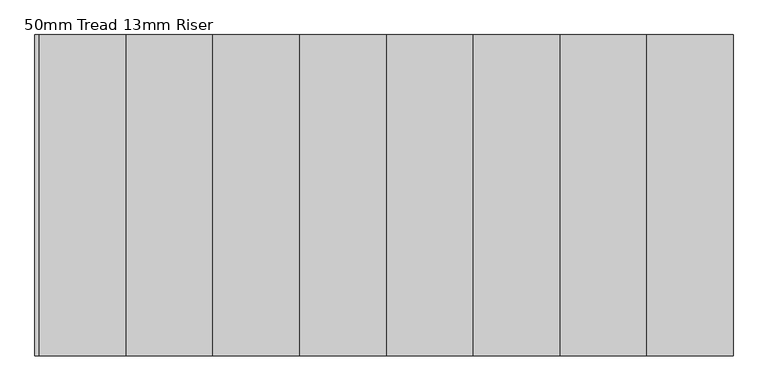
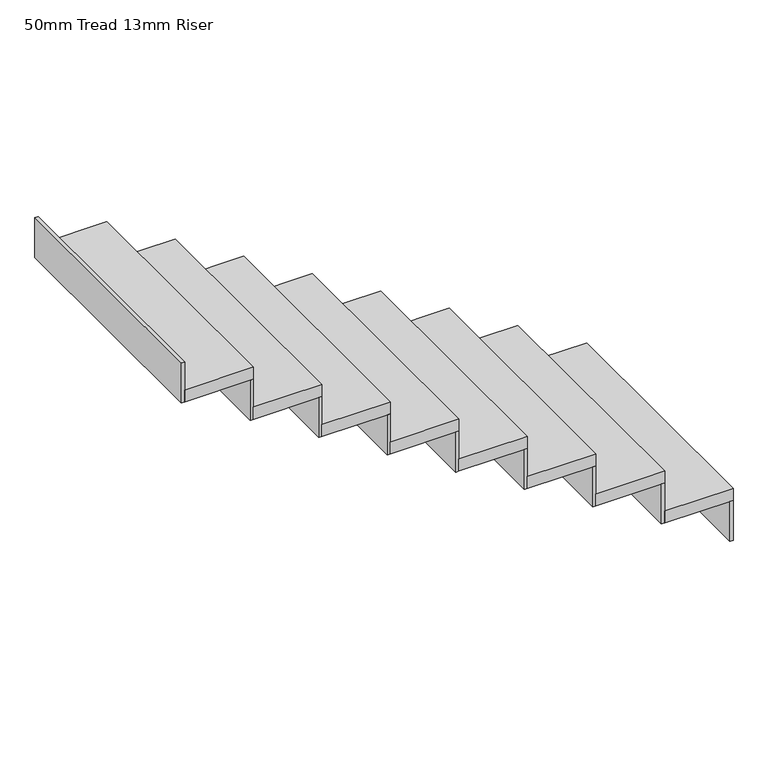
"""IFC4 building model written with IfcOpenShell, lengths in millimetres: stair flight geometry, 50mm Tread 13mm Riser."""

from ifc_helpers import new_model, si_unit, frame, origin, place, context, project, spatial, polyline, outline, extrude, source, transform, mapped, element, save


def stair_flight_50mm_tread_13mm_riser_e6a1415e(model_context):
    return source(origin(), model_context, "Body", "SweptSolid", [
        extrude(outline(polyline([(-108541.4400112, 13172.4703498), (-108528.9400112, 13172.4703498), (-108528.9400112, 12172.4703498), (-108541.4400112, 12172.4703498), (-108541.4400112, 13172.4703498)])), frame((0.0, 0.0, 45620.0), z_axis=(0.0, 0.0, 1.0), x_axis=(1.0, 0.0, 0.0)), (0.0, 0.0, 1.0), 166.6666667),
        extrude(outline(polyline([(-108798.9400112, 12172.4703498), (-108798.9400112, 13172.4703498), (-108528.9400112, 13172.4703498), (-108528.9400112, 12172.4703498), (-108798.9400112, 12172.4703498)])), frame((0.0, 0.0, 45786.6666667), z_axis=(0.0, 0.0, 1.0), x_axis=(1.0, 0.0, 0.0)), (0.0, 0.0, 1.0), 50.0),
        extrude(outline(polyline([(-108811.4400112, 13172.4703498), (-108798.9400112, 13172.4703498), (-108798.9400112, 12172.4703498), (-108811.4400112, 12172.4703498), (-108811.4400112, 13172.4703498)])), frame((0.0, 0.0, 45786.6666667), z_axis=(0.0, 0.0, 1.0), x_axis=(1.0, 0.0, 0.0)), (0.0, 0.0, 1.0), 166.6666667),
        extrude(outline(polyline([(-109068.9400112, 12172.4703498), (-109068.9400112, 13172.4703498), (-108798.9400112, 13172.4703498), (-108798.9400112, 12172.4703498), (-109068.9400112, 12172.4703498)])), frame((0.0, 0.0, 45953.3333333), z_axis=(0.0, 0.0, 1.0), x_axis=(1.0, 0.0, 0.0)), (0.0, 0.0, 1.0), 50.0),
        extrude(outline(polyline([(-109081.4400112, 13172.4703498), (-109068.9400112, 13172.4703498), (-109068.9400112, 12172.4703498), (-109081.4400112, 12172.4703498), (-109081.4400112, 13172.4703498)])), frame((0.0, 0.0, 45953.3333333), z_axis=(0.0, 0.0, 1.0), x_axis=(1.0, 0.0, 0.0)), (0.0, 0.0, 1.0), 166.6666667),
        extrude(outline(polyline([(-109338.9400112, 12172.4703498), (-109338.9400112, 13172.4703498), (-109068.9400112, 13172.4703498), (-109068.9400112, 12172.4703498), (-109338.9400112, 12172.4703498)])), frame((0.0, 0.0, 46120.0), z_axis=(0.0, 0.0, 1.0), x_axis=(1.0, 0.0, 0.0)), (0.0, 0.0, 1.0), 50.0),
        extrude(outline(polyline([(-109351.4400112, 13172.4703498), (-109338.9400112, 13172.4703498), (-109338.9400112, 12172.4703498), (-109351.4400112, 12172.4703498), (-109351.4400112, 13172.4703498)])), frame((0.0, 0.0, 46120.0), z_axis=(0.0, 0.0, 1.0), x_axis=(1.0, 0.0, 0.0)), (0.0, 0.0, 1.0), 166.6666667),
        extrude(outline(polyline([(-109608.9400112, 12172.4703498), (-109608.9400112, 13172.4703498), (-109338.9400112, 13172.4703498), (-109338.9400112, 12172.4703498), (-109608.9400112, 12172.4703498)])), frame((0.0, 0.0, 46286.6666667), z_axis=(0.0, 0.0, 1.0), x_axis=(1.0, 0.0, 0.0)), (0.0, 0.0, 1.0), 50.0),
        extrude(outline(polyline([(-109621.4400112, 13172.4703498), (-109608.9400112, 13172.4703498), (-109608.9400112, 12172.4703498), (-109621.4400112, 12172.4703498), (-109621.4400112, 13172.4703498)])), frame((0.0, 0.0, 46286.6666667), z_axis=(0.0, 0.0, 1.0), x_axis=(1.0, 0.0, 0.0)), (0.0, 0.0, 1.0), 166.6666667),
        extrude(outline(polyline([(-109878.9400112, 12172.4703498), (-109878.9400112, 13172.4703498), (-109608.9400112, 13172.4703498), (-109608.9400112, 12172.4703498), (-109878.9400112, 12172.4703498)])), frame((0.0, 0.0, 46453.3333333), z_axis=(0.0, 0.0, 1.0), x_axis=(1.0, 0.0, 0.0)), (0.0, 0.0, 1.0), 50.0),
        extrude(outline(polyline([(-109891.4400112, 13172.4703498), (-109878.9400112, 13172.4703498), (-109878.9400112, 12172.4703498), (-109891.4400112, 12172.4703498), (-109891.4400112, 13172.4703498)])), frame((0.0, 0.0, 46453.3333333), z_axis=(0.0, 0.0, 1.0), x_axis=(1.0, 0.0, 0.0)), (0.0, 0.0, 1.0), 166.6666667),
        extrude(outline(polyline([(-110148.9400112, 12172.4703498), (-110148.9400112, 13172.4703498), (-109878.9400112, 13172.4703498), (-109878.9400112, 12172.4703498), (-110148.9400112, 12172.4703498)])), frame((0.0, 0.0, 46620.0), z_axis=(0.0, 0.0, 1.0), x_axis=(1.0, 0.0, 0.0)), (0.0, 0.0, 1.0), 50.0),
        extrude(outline(polyline([(-110161.4400112, 13172.4703498), (-110148.9400112, 13172.4703498), (-110148.9400112, 12172.4703498), (-110161.4400112, 12172.4703498), (-110161.4400112, 13172.4703498)])), frame((0.0, 0.0, 46620.0), z_axis=(0.0, 0.0, 1.0), x_axis=(1.0, 0.0, 0.0)), (0.0, 0.0, 1.0), 166.6666667),
        extrude(outline(polyline([(-110418.9400112, 12172.4703498), (-110418.9400112, 13172.4703498), (-110148.9400112, 13172.4703498), (-110148.9400112, 12172.4703498), (-110418.9400112, 12172.4703498)])), frame((0.0, 0.0, 46786.6666667), z_axis=(0.0, 0.0, 1.0), x_axis=(1.0, 0.0, 0.0)), (0.0, 0.0, 1.0), 50.0),
        extrude(outline(polyline([(-110431.4400112, 13172.4703498), (-110418.9400112, 13172.4703498), (-110418.9400112, 12172.4703498), (-110431.4400112, 12172.4703498), (-110431.4400112, 13172.4703498)])), frame((0.0, 0.0, 46786.6666667), z_axis=(0.0, 0.0, 1.0), x_axis=(1.0, 0.0, 0.0)), (0.0, 0.0, 1.0), 166.6666667),
        extrude(outline(polyline([(-110701.4400112, 13172.4703498), (-110688.9400112, 13172.4703498), (-110688.9400112, 12172.4703498), (-110701.4400112, 12172.4703498), (-110701.4400112, 13172.4703498)])), frame((0.0, 0.0, 46953.3333333), z_axis=(0.0, 0.0, 1.0), x_axis=(1.0, 0.0, 0.0)), (0.0, 0.0, 1.0), 166.6666667),
        extrude(outline(polyline([(-110688.9400112, 12172.4703498), (-110688.9400112, 13172.4703498), (-110418.9400112, 13172.4703498), (-110418.9400112, 12172.4703498), (-110688.9400112, 12172.4703498)])), frame((0.0, 0.0, 46953.3333333), z_axis=(0.0, 0.0, 1.0), x_axis=(1.0, 0.0, 0.0)), (0.0, 0.0, 1.0), 50.0),
    ])


if __name__ == "__main__":
    model = new_model("IFC4")
    model_context = context("Model", 3, world=origin())
    ifc_project = project(units=[si_unit("LENGTHUNIT", "METRE", prefix="MILLI")], contexts=[model_context])
    site = spatial("IfcSite", under=ifc_project)
    building = spatial("IfcBuilding", under=site)
    placement = place(None, origin())
    stair_flight_50mm_tread_13mm_riser_shape = stair_flight_50mm_tread_13mm_riser_e6a1415e(model_context)
    element("IfcStairFlight", 1, ObjectType="50mm Tread 13mm Riser", at=placement, inside=building, context=model_context, shape_type="MappedRepresentation", body=[
        mapped(stair_flight_50mm_tread_13mm_riser_shape, transform((0.0, 0.0, 0.0), x_axis=(1.0, 0.0, 0.0), y_axis=(0.0, 1.0, 0.0), z_axis=(0.0, 0.0, 1.0))),
    ])
    save(model, "model.ifc")
